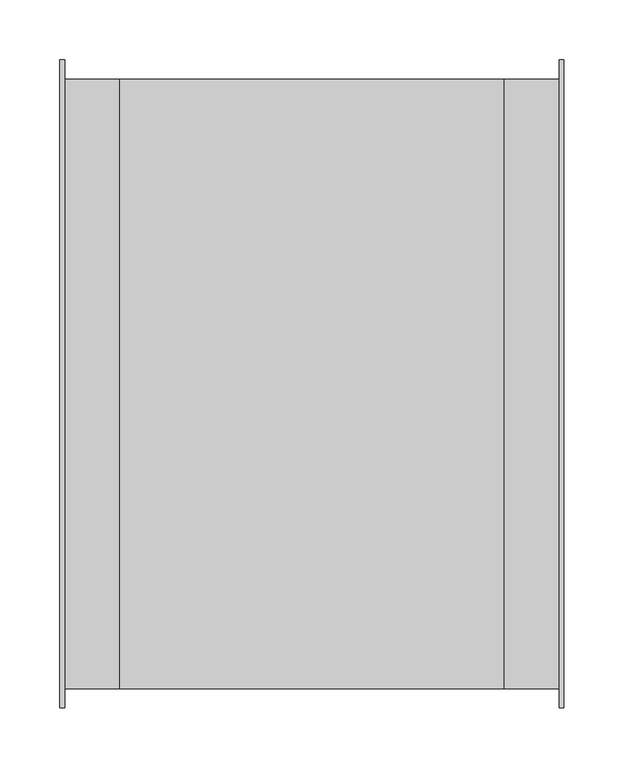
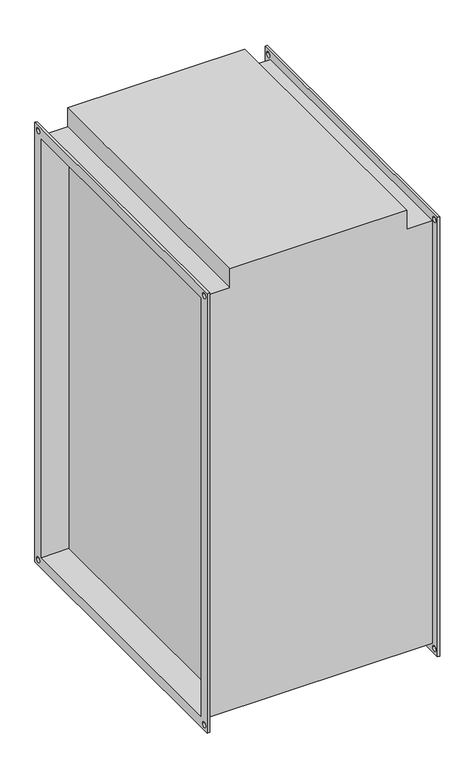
"""IFC4 building model written with IfcOpenShell, lengths in millimetres: proxy geometry, СВ_ВоздухонагревательЭлектрический_КанальныйПрямоугольный_200-1000_SPH-E : SPH-E-800x500/30."""

from ifc_helpers import new_model, si_unit, frame, origin, place, context, project, spatial, polyline, circle_curve, source, transform, mapped, element, save
from ifc_brep_helpers import plane_surface, revolved_surface, advanced_brep


def mechanical_equipment_376c1359(model_context):
    return source(origin(), model_context, "Body", "AdvancedBrep", [
        advanced_brep(
        [(-160.0, -254.0, 404.0), (-206.0, -254.0, 404.0), (-206.0, -254.0, -404.0), (206.0, -254.0, -404.0), (206.0, -254.0, 404.0), (160.0, -254.0, 404.0), (160.0, -254.0, 440.0), (-160.0, -254.0, 440.0), (-206.0, 254.0, -404.0), (206.0, 254.0, -404.0), (-206.0, 254.0, 404.0), (-160.0, 254.0, 404.0), (-160.0, 254.0, 440.0), (160.0, 254.0, 440.0), (160.0, 254.0, 404.0), (206.0, 254.0, 404.0), (160.0, 250.0, -400.0), (160.0, 250.0, 400.0), (160.0, -250.0, 400.0), (160.0, -250.0, -400.0), (-160.0, -250.0, 400.0), (-160.0, 250.0, 400.0), (-160.0, 250.0, -400.0), (-160.0, -250.0, -400.0), (-210.0, -270.0, 420.0), (-210.0, 270.0, 420.0), (-210.0, 270.0, -420.0), (-210.0, -270.0, -420.0), (-210.0, -250.0, 400.0), (-210.0, -250.0, -400.0), (-210.0, 250.0, -400.0), (-210.0, 250.0, 400.0), (-210.0, 255.0, 410.0), (-210.0, 265.0, 410.0), (-210.0, -265.0, 410.0), (-210.0, -255.0, 410.0), (-210.0, -265.0, -410.0), (-210.0, -255.0, -410.0), (-210.0, 255.0, -410.0), (-210.0, 265.0, -410.0), (-206.0, -270.0, 420.0), (-206.0, -270.0, -420.0), (-206.0, 270.0, -420.0), (-206.0, 270.0, 420.0), (-206.0, 265.0, 410.0), (-206.0, 255.0, 410.0), (-206.0, -255.0, 410.0), (-206.0, -265.0, 410.0), (-206.0, -255.0, -410.0), (-206.0, -265.0, -410.0), (-206.0, 265.0, -410.0), (-206.0, 255.0, -410.0), (206.0, 270.0, 420.0), (206.0, 270.0, -420.0), (206.0, -270.0, -420.0), (206.0, -270.0, 420.0), (206.0, 255.0, 410.0), (206.0, 265.0, 410.0), (206.0, -265.0, 410.0), (206.0, -255.0, 410.0), (206.0, -265.0, -410.0), (206.0, -255.0, -410.0), (206.0, 255.0, -410.0), (206.0, 265.0, -410.0), (210.0, 270.0, 420.0), (210.0, -270.0, 420.0), (210.0, -270.0, -420.0), (210.0, 270.0, -420.0), (210.0, 250.0, 400.0), (210.0, 250.0, -400.0), (210.0, -250.0, -400.0), (210.0, -250.0, 400.0), (210.0, 265.0, 410.0), (210.0, 255.0, 410.0), (210.0, -255.0, 410.0), (210.0, -265.0, 410.0), (210.0, -255.0, -410.0), (210.0, -265.0, -410.0), (210.0, 265.0, -410.0), (210.0, 255.0, -410.0)],
        [
            (0, 1),
            (1, 2),
            (2, 3),
            (3, 4),
            (4, 5),
            (5, 6),
            (6, 7),
            (7, 0),
            (2, 8),
            (8, 9),
            (9, 3),
            (10, 11),
            (11, 12),
            (12, 13),
            (13, 14),
            (14, 15),
            (15, 9),
            (8, 10),
            (0, 11),
            (10, 1),
            (13, 6),
            (5, 14),
            (16, 17),
            (17, 18),
            (18, 19),
            (19, 16),
            (7, 12),
            (20, 21),
            (21, 22),
            (22, 23),
            (23, 20),
            (4, 15),
            (24, 25),
            (25, 26),
            (26, 27),
            (27, 24),
            (28, 29),
            (29, 30),
            (30, 31),
            (31, 28),
            (32, 33, circle_curve(frame((-210.0, 260.0, 410.0), z_axis=(1.0, 0.0, 0.0), x_axis=(0.0, 1.0, 0.0)), 5.0)),
            (33, 32, circle_curve(frame((-210.0, 260.0, 410.0), z_axis=(1.0, 0.0, 0.0), x_axis=(0.0, 1.0, 0.0)), 5.0)),
            (34, 35, circle_curve(frame((-210.0, -260.0, 410.0), z_axis=(1.0, 0.0, 0.0), x_axis=(0.0, 1.0, 0.0)), 5.0)),
            (35, 34, circle_curve(frame((-210.0, -260.0, 410.0), z_axis=(1.0, 0.0, 0.0), x_axis=(0.0, 1.0, 0.0)), 5.0)),
            (36, 37, circle_curve(frame((-210.0, -260.0, -410.0), z_axis=(1.0, 0.0, 0.0), x_axis=(0.0, 1.0, 0.0)), 5.0)),
            (37, 36, circle_curve(frame((-210.0, -260.0, -410.0), z_axis=(1.0, 0.0, 0.0), x_axis=(0.0, 1.0, 0.0)), 5.0)),
            (38, 39, circle_curve(frame((-210.0, 260.0, -410.0), z_axis=(1.0, 0.0, 0.0), x_axis=(0.0, 1.0, 0.0)), 5.0)),
            (39, 38, circle_curve(frame((-210.0, 260.0, -410.0), z_axis=(1.0, 0.0, 0.0), x_axis=(0.0, 1.0, 0.0)), 5.0)),
            (40, 41),
            (41, 42),
            (42, 43),
            (43, 40),
            (44, 45, circle_curve(frame((-206.0, 260.0, 410.0), z_axis=(-1.0, 0.0, 0.0), x_axis=(0.0, 1.0, 0.0)), 5.0)),
            (45, 44, circle_curve(frame((-206.0, 260.0, 410.0), z_axis=(-1.0, 0.0, 0.0), x_axis=(0.0, 1.0, 0.0)), 5.0)),
            (46, 47, circle_curve(frame((-206.0, -260.0, 410.0), z_axis=(-1.0, 0.0, 0.0), x_axis=(0.0, 1.0, 0.0)), 5.0)),
            (47, 46, circle_curve(frame((-206.0, -260.0, 410.0), z_axis=(-1.0, 0.0, 0.0), x_axis=(0.0, 1.0, 0.0)), 5.0)),
            (48, 49, circle_curve(frame((-206.0, -260.0, -410.0), z_axis=(-1.0, 0.0, 0.0), x_axis=(0.0, 1.0, 0.0)), 5.0)),
            (49, 48, circle_curve(frame((-206.0, -260.0, -410.0), z_axis=(-1.0, 0.0, 0.0), x_axis=(0.0, 1.0, 0.0)), 5.0)),
            (50, 51, circle_curve(frame((-206.0, 260.0, -410.0), z_axis=(-1.0, 0.0, 0.0), x_axis=(0.0, 1.0, 0.0)), 5.0)),
            (51, 50, circle_curve(frame((-206.0, 260.0, -410.0), z_axis=(-1.0, 0.0, 0.0), x_axis=(0.0, 1.0, 0.0)), 5.0)),
            (27, 41),
            (40, 24),
            (26, 42),
            (25, 43),
            (52, 53),
            (53, 54),
            (54, 55),
            (55, 52),
            (56, 57, circle_curve(frame((206.0, 260.0, 410.0), z_axis=(1.0, 0.0, 0.0), x_axis=(0.0, 1.0, 0.0)), 5.0)),
            (57, 56, circle_curve(frame((206.0, 260.0, 410.0), z_axis=(1.0, 0.0, 0.0), x_axis=(0.0, 1.0, 0.0)), 5.0)),
            (58, 59, circle_curve(frame((206.0, -260.0, 410.0), z_axis=(1.0, 0.0, 0.0), x_axis=(0.0, 1.0, 0.0)), 5.0)),
            (59, 58, circle_curve(frame((206.0, -260.0, 410.0), z_axis=(1.0, 0.0, 0.0), x_axis=(0.0, 1.0, 0.0)), 5.0)),
            (60, 61, circle_curve(frame((206.0, -260.0, -410.0), z_axis=(1.0, 0.0, 0.0), x_axis=(0.0, 1.0, 0.0)), 5.0)),
            (61, 60, circle_curve(frame((206.0, -260.0, -410.0), z_axis=(1.0, 0.0, 0.0), x_axis=(0.0, 1.0, 0.0)), 5.0)),
            (62, 63, circle_curve(frame((206.0, 260.0, -410.0), z_axis=(1.0, 0.0, 0.0), x_axis=(0.0, 1.0, 0.0)), 5.0)),
            (63, 62, circle_curve(frame((206.0, 260.0, -410.0), z_axis=(1.0, 0.0, 0.0), x_axis=(0.0, 1.0, 0.0)), 5.0)),
            (64, 65),
            (65, 66),
            (66, 67),
            (67, 64),
            (68, 69),
            (69, 70),
            (70, 71),
            (71, 68),
            (72, 73, circle_curve(frame((210.0, 260.0, 410.0), z_axis=(-1.0, 0.0, 0.0), x_axis=(0.0, 1.0, 0.0)), 5.0)),
            (73, 72, circle_curve(frame((210.0, 260.0, 410.0), z_axis=(-1.0, 0.0, 0.0), x_axis=(0.0, 1.0, 0.0)), 5.0)),
            (74, 75, circle_curve(frame((210.0, -260.0, 410.0), z_axis=(-1.0, 0.0, 0.0), x_axis=(0.0, 1.0, 0.0)), 5.0)),
            (75, 74, circle_curve(frame((210.0, -260.0, 410.0), z_axis=(-1.0, 0.0, 0.0), x_axis=(0.0, 1.0, 0.0)), 5.0)),
            (76, 77, circle_curve(frame((210.0, -260.0, -410.0), z_axis=(-1.0, 0.0, 0.0), x_axis=(0.0, 1.0, 0.0)), 5.0)),
            (77, 76, circle_curve(frame((210.0, -260.0, -410.0), z_axis=(-1.0, 0.0, 0.0), x_axis=(0.0, 1.0, 0.0)), 5.0)),
            (78, 79, circle_curve(frame((210.0, 260.0, -410.0), z_axis=(-1.0, 0.0, 0.0), x_axis=(0.0, 1.0, 0.0)), 5.0)),
            (79, 78, circle_curve(frame((210.0, 260.0, -410.0), z_axis=(-1.0, 0.0, 0.0), x_axis=(0.0, 1.0, 0.0)), 5.0)),
            (55, 65),
            (64, 52),
            (54, 66),
            (53, 67),
            (31, 21),
            (20, 28),
            (30, 22),
            (29, 23),
            (68, 17),
            (16, 69),
            (19, 70),
            (18, 71),
            (32, 45),
            (44, 33),
            (56, 73),
            (72, 57),
            (34, 47),
            (46, 35),
            (58, 75),
            (74, 59),
            (36, 49),
            (48, 37),
            (60, 77),
            (76, 61),
            (38, 51),
            (50, 39),
            (62, 79),
            (78, 63),
        ],
        [
            plane_surface(frame((-160.0, -254.0, 404.0), z_axis=(0.0, -1.0, 0.0), x_axis=(-1.0, 0.0, 0.0))),
            plane_surface(frame((-160.0, -254.0, -404.0), z_axis=(0.0, 0.0, -1.0), x_axis=(-1.0, 0.0, 0.0))),
            plane_surface(frame((-160.0, 254.0, -404.0), z_axis=(0.0, 1.0, 0.0), x_axis=(-1.0, 0.0, 0.0))),
            plane_surface(frame((-160.0, 254.0, 404.0), z_axis=(0.0, 0.0, 1.0), x_axis=(-1.0, 0.0, 0.0))),
            plane_surface(frame((160.0, -254.0, 440.0), z_axis=(1.0, 0.0, 0.0), x_axis=(0.0, 0.0, -1.0))),
            plane_surface(frame((-160.0, -254.0, 440.0), z_axis=(-1.0, 0.0, 0.0), x_axis=(0.0, 0.0, 1.0))),
            plane_surface(frame((160.0, 254.0, 440.0), z_axis=(0.0, 0.0, 1.0), x_axis=(-1.0, 0.0, 0.0))),
            plane_surface(frame((206.0, 254.0, 404.0), z_axis=(0.0, 0.0, 1.0), x_axis=(-1.0, 0.0, 0.0))),
            plane_surface(frame((-210.0, -270.0, 420.0), z_axis=(-1.0, 0.0, 0.0), x_axis=(0.0, 0.0, 1.0))),
            plane_surface(frame((-206.0, -270.0, 420.0), z_axis=(1.0, 0.0, 0.0), x_axis=(0.0, 0.0, -1.0))),
            plane_surface(frame((-206.0, -270.0, 420.0), z_axis=(0.0, -1.0, 0.0), x_axis=(-1.0, 0.0, 0.0))),
            plane_surface(frame((-206.0, -270.0, -420.0), z_axis=(0.0, 0.0, -1.0), x_axis=(-1.0, 0.0, 0.0))),
            plane_surface(frame((-206.0, 270.0, -420.0), z_axis=(0.0, 1.0, 0.0), x_axis=(-1.0, 0.0, 0.0))),
            plane_surface(frame((-206.0, 270.0, 420.0), z_axis=(0.0, 0.0, 1.0), x_axis=(-1.0, 0.0, 0.0))),
            plane_surface(frame((206.0, 250.0, -400.0), z_axis=(-1.0, 0.0, 0.0), x_axis=(0.0, 0.0, 1.0))),
            plane_surface(frame((210.0, 250.0, -400.0), z_axis=(1.0, 0.0, 0.0), x_axis=(0.0, 0.0, -1.0))),
            plane_surface(frame((210.0, 270.0, 420.0), z_axis=(0.0, 0.0, 1.0), x_axis=(-1.0, 0.0, 0.0))),
            plane_surface(frame((210.0, -270.0, 420.0), z_axis=(0.0, -1.0, 0.0), x_axis=(-1.0, 0.0, 0.0))),
            plane_surface(frame((210.0, -270.0, -420.0), z_axis=(0.0, 0.0, -1.0), x_axis=(-1.0, 0.0, 0.0))),
            plane_surface(frame((210.0, 270.0, -420.0), z_axis=(0.0, 1.0, 0.0), x_axis=(-1.0, 0.0, 0.0))),
            plane_surface(frame((-206.0, -250.0, 400.0), z_axis=(0.0, 0.0, -1.0), x_axis=(-1.0, 0.0, 0.0))),
            plane_surface(frame((-206.0, 250.0, 400.0), z_axis=(0.0, -1.0, 0.0), x_axis=(-1.0, 0.0, 0.0))),
            plane_surface(frame((-206.0, 250.0, -400.0), z_axis=(0.0, 0.0, 1.0), x_axis=(-1.0, 0.0, 0.0))),
            plane_surface(frame((-206.0, -250.0, -400.0), z_axis=(0.0, 1.0, 0.0), x_axis=(-1.0, 0.0, 0.0))),
            plane_surface(frame((210.0, 250.0, 400.0), z_axis=(0.0, -1.0, 0.0), x_axis=(-1.0, 0.0, 0.0))),
            plane_surface(frame((210.0, 250.0, -400.0), z_axis=(0.0, 0.0, 1.0), x_axis=(-1.0, 0.0, 0.0))),
            plane_surface(frame((210.0, -250.0, -400.0), z_axis=(0.0, 1.0, 0.0), x_axis=(-1.0, 0.0, 0.0))),
            plane_surface(frame((210.0, -250.0, 400.0), z_axis=(0.0, 0.0, -1.0), x_axis=(-1.0, 0.0, 0.0))),
            revolved_surface(polyline([(-206.0, 265.0, 410.0), (-210.0, 265.0, 410.0)]), (-210.0, 260.0, 410.0), (1.0, 0.0, 0.0)),
            revolved_surface(polyline([(210.0, 265.0, 410.0), (206.0, 265.0, 410.0)]), (-210.0, 260.0, 410.0), (1.0, 0.0, 0.0)),
            revolved_surface(polyline([(-206.0, -255.0, 410.0), (-210.0, -255.0, 410.0)]), (0.0, -260.0, 410.0), (1.0, 0.0, 0.0)),
            revolved_surface(polyline([(210.0, -255.0, 410.0), (206.0, -255.0, 410.0)]), (0.0, -260.0, 410.0), (1.0, 0.0, 0.0)),
            revolved_surface(polyline([(-206.0, -255.0, -410.0), (-210.0, -255.0, -410.0)]), (0.0, -260.0, -410.0), (1.0, 0.0, 0.0)),
            revolved_surface(polyline([(210.0, -255.0, -410.0), (206.0, -255.0, -410.0)]), (0.0, -260.0, -410.0), (1.0, 0.0, 0.0)),
            revolved_surface(polyline([(-206.0, 265.0, -410.0), (-210.0, 265.0, -410.0)]), (0.0, 260.0, -410.0), (1.0, 0.0, 0.0)),
            revolved_surface(polyline([(210.0, 265.0, -410.0), (206.0, 265.0, -410.0)]), (0.0, 260.0, -410.0), (1.0, 0.0, 0.0)),
        ],
        [
            (0, [[1, 2, 3, 4, 5, 6, 7, 8]]),
            (1, [[-3, 9, 10, 11]]),
            (2, [[12, 13, 14, 15, 16, 17, -10, 18]]),
            (3, [[-1, 19, -12, 20]]),
            (4, [[21, -6, 22, -15]]),
            (4, [[23, 24, 25, 26]]),
            (5, [[27, -13, -19, -8]]),
            (5, [[28, 29, 30, 31]]),
            (6, [[-21, -14, -27, -7]]),
            (7, [[-5, 32, -16, -22]]),
            (8, [[33, 34, 35, 36], [37, 38, 39, 40], [41, 42], [43, 44], [45, 46], [47, 48]]),
            (9, [[49, 50, 51, 52], [-2, -20, -18, -9], [53, 54], [55, 56], [57, 58], [59, 60]]),
            (10, [[-36, 61, -49, 62]]),
            (11, [[-35, 63, -50, -61]]),
            (12, [[-34, 64, -51, -63]]),
            (13, [[-33, -62, -52, -64]]),
            (14, [[65, 66, 67, 68], [-4, -11, -17, -32], [69, 70], [71, 72], [73, 74], [75, 76]]),
            (15, [[77, 78, 79, 80], [81, 82, 83, 84], [85, 86], [87, 88], [89, 90], [91, 92]]),
            (16, [[-68, 93, -77, 94]]),
            (17, [[-67, 95, -78, -93]]),
            (18, [[-66, 96, -79, -95]]),
            (19, [[-65, -94, -80, -96]]),
            (20, [[-40, 97, -28, 98]]),
            (21, [[-39, 99, -29, -97]]),
            (22, [[-38, 100, -30, -99]]),
            (23, [[-37, -98, -31, -100]]),
            (24, [[-81, 101, -23, 102]]),
            (25, [[-82, -102, -26, 103]]),
            (26, [[-83, -103, -25, 104]]),
            (27, [[-101, -84, -104, -24]]),
            (28, [[105, -53, 106, -41]]),
            (29, [[107, -85, 108, -69]]),
            (28, [[-105, -42, -106, -54]]),
            (29, [[-107, -70, -108, -86]]),
            (30, [[109, -55, 110, -43]]),
            (31, [[111, -87, 112, -71]]),
            (30, [[-109, -44, -110, -56]]),
            (31, [[-111, -72, -112, -88]]),
            (32, [[113, -57, 114, -45]]),
            (33, [[115, -89, 116, -73]]),
            (32, [[-113, -46, -114, -58]]),
            (33, [[-115, -74, -116, -90]]),
            (34, [[117, -59, 118, -47]]),
            (35, [[119, -91, 120, -75]]),
            (34, [[-117, -48, -118, -60]]),
            (35, [[-119, -76, -120, -92]]),
        ],
    ),
    ])


if __name__ == "__main__":
    model = new_model("IFC4")
    model_context = context("Model", 3, world=origin())
    ifc_project = project(units=[si_unit("LENGTHUNIT", "METRE", prefix="MILLI")], contexts=[model_context])
    site = spatial("IfcSite", under=ifc_project)
    building = spatial("IfcBuilding", under=site)
    placement = place(None, origin())
    mechanical_equipment_shape = mechanical_equipment_376c1359(model_context)
    element("IfcBuildingElementProxy", 1, Name="СВ_ВоздухонагревательЭлектрический_КанальныйПрямоугольный_200-1000_SPH-E : SPH-E-800x500/30", ObjectType="СВ_ВоздухонагревательЭлектрический_КанальныйПрямоугольный_200-1000_SPH-E : SPH-E-800x500/30", at=placement, inside=building, context=model_context, shape_type="MappedRepresentation", body=[
        mapped(mechanical_equipment_shape, transform((0.0, 0.0, 0.0), x_axis=(1.0, 0.0, 0.0), y_axis=(0.0, 1.0, 0.0), z_axis=(0.0, 0.0, 1.0))),
    ])
    save(model, "model.ifc")
